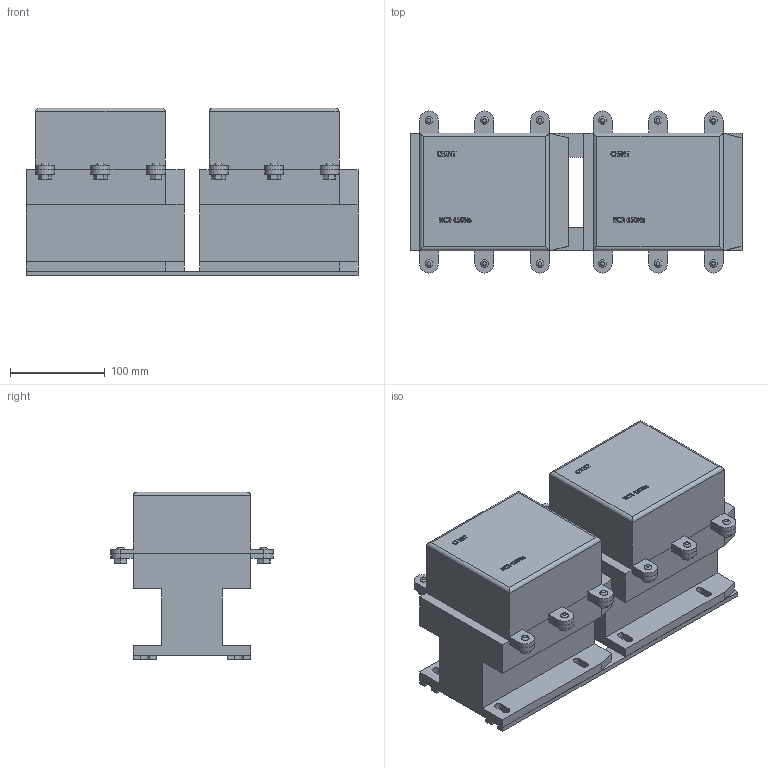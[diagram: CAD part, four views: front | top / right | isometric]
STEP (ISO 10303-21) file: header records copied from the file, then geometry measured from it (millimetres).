
FILE_DESCRIPTION(/* description */ (''),/* implementation_level */ '2;1');
FILE_NAME(/* name */ 'D:\CHINT2\NC2-N\NC2-150Ns 230В 50Гц (горизонтальная установка).stp',/* time_stamp */ '2017-11-12T21:03:53+03:00',/* author */ ('RSagdiev'),/* organization */ (''),/* preprocessor_version */ 'ST-DEVELOPER v16.5',/* originating_system */ 'Autodesk Inventor 2017',/* authorisation */ '');
FILE_SCHEMA (('AUTOMOTIVE_DESIGN { 1 0 10303 214 3 1 1 }'));
Length unit declared in the file: millimetre
Products named in the file (1): NC2-150Ns 230В 50Гц (\X2\0433043E044004380437
043E043D04420430043B044C043D0430044F\X0\ \X2\0443044104420430043D043E0432
043A0430\X0\)
Bounding box: 350 x 171 x 177.1 mm (x, y, z)
Volume: 5554790.6 mm3; surface area: 440481.4 mm2
Topology: 30 solids, 30 shells, 740 faces, 1962 edges, 1312 vertices
Faces by surface type: plane 504, bspline 184, cylinder 52
Entity records: 24494 total; most frequent: CARTESIAN_POINT 7101, ORIENTED_EDGE 3924, DIRECTION 2864, EDGE_CURVE 1962, LINE 1462, VECTOR 1462, VERTEX_POINT 1312, EDGE_LOOP 786
